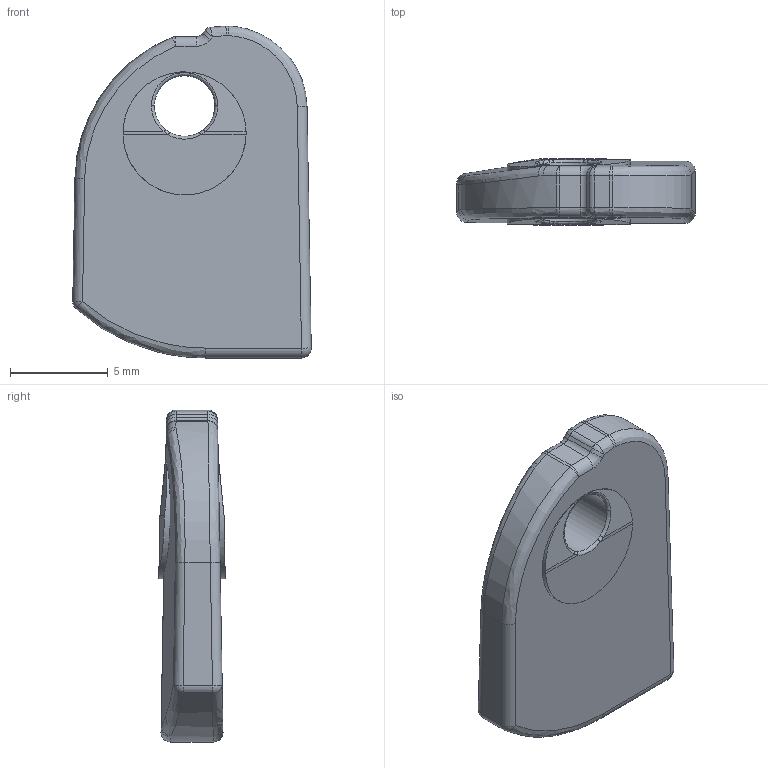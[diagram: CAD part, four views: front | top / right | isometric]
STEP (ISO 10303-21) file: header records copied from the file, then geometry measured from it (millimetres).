
FILE_DESCRIPTION((''),'2;1');
FILE_NAME('P1455','2016-04-15T',('jas'),(''),'CREO PARAMETRIC BY PTC INC, 2016050','CREO PARAMETRIC BY PTC INC, 2016050','');
FILE_SCHEMA(('AUTOMOTIVE_DESIGN { 1 0 10303 214 1 1 1 1 }'));
Length unit declared in the file: millimetre
Products named in the file (1): P1455
Bounding box: 12.21 x 3.4 x 17 mm (x, y, z)
Volume: 494.2 mm3; surface area: 499.5 mm2
Topology: 1 solids, 1 shells, 96 faces, 217 edges, 122 vertices
Faces by surface type: bspline 38, cylinder 37, plane 15, sphere 6
Entity records: 5747 total; most frequent: CARTESIAN_POINT 2890, ORIENTED_EDGE 434, DIRECTION 297, PRESENTATION_STYLE_ASSIGNMENT 218, STYLED_ITEM 218, CURVE_STYLE 217, EDGE_CURVE 217, VERTEX_POINT 122
